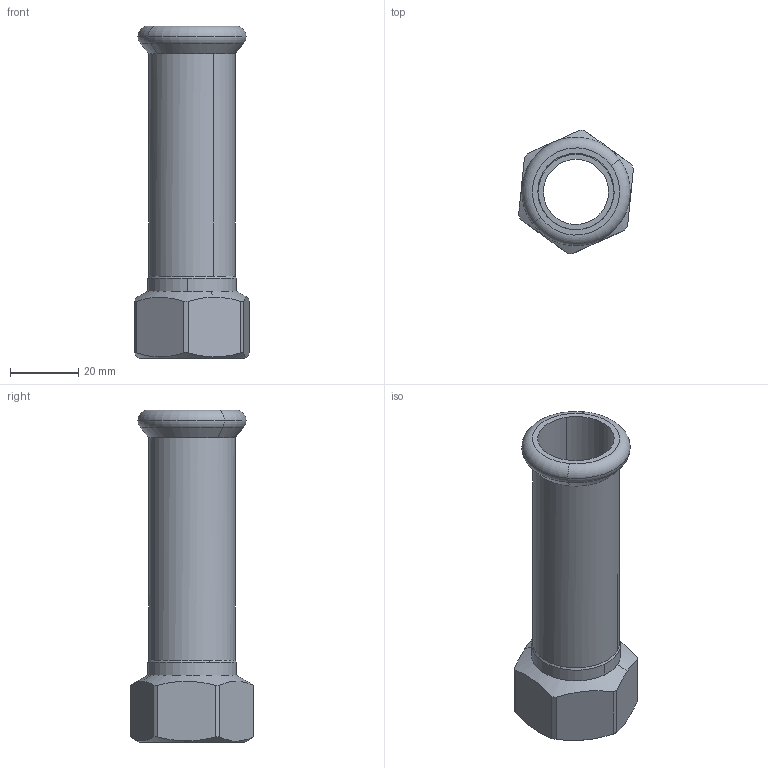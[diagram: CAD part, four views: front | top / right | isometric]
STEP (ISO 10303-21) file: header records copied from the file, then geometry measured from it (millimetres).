
FILE_DESCRIPTION(('CoCreate Modeling STEP Export'),'2;1');
FILE_NAME('C1443 22xRp3-4.stp','2014-11-12T16:43:37',(''),(''),'CoCreate Modeling STEP processor for AP214 (Solid Model)','CoCreate Modeling 17.00A 17-Jun-2010 (C) Parametric Technology GmbH','');
FILE_SCHEMA(('AUTOMOTIVE_DESIGN { 1 0 10303 214 1 1 1 1 }'));
Length unit declared in the file: millimetre
Products named in the file (2): C1443_22xRp3-4
Assembly tree (1 placements, depth 2):
  C1443_22xRp3-4
    C1443_22xRp3-4
Bounding box: 33.55 x 36.12 x 97 mm (x, y, z)
Volume: 18151.6 mm3; surface area: 17044.8 mm2
Topology: 1 solids, 1 shells, 53 faces, 141 edges, 93 vertices
Faces by surface type: cylinder 22, cone 16, plane 11, torus 4
Entity records: 2331 total; most frequent: CARTESIAN_POINT 1107, ORIENTED_EDGE 282, DIRECTION 204, EDGE_CURVE 141, VERTEX_POINT 93, AXIS2_PLACEMENT_3D 80, EDGE_LOOP 58, FACE_OUTER_BOUND 53
